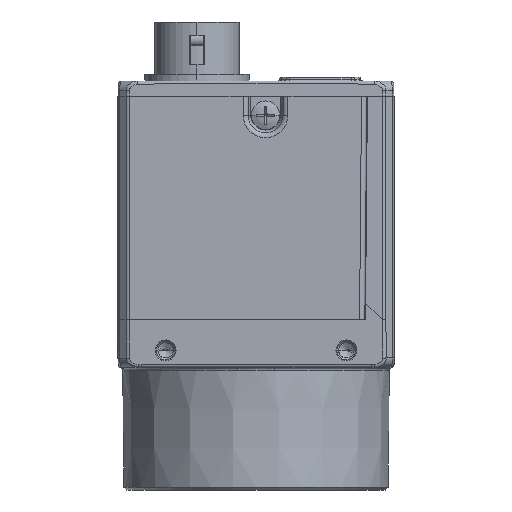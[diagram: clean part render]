
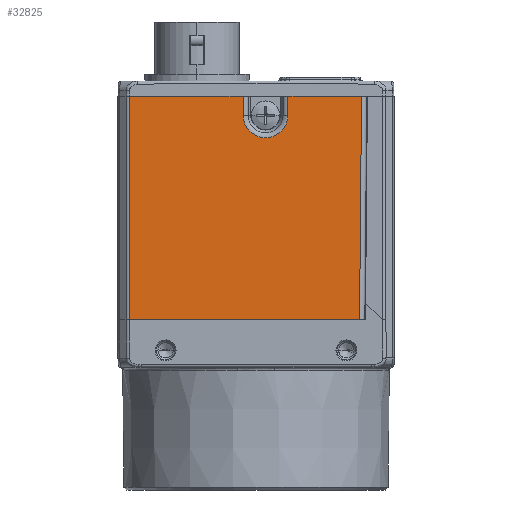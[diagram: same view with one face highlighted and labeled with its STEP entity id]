
A CAD part, left-side view. The second image highlights one B-rep face of the part: STEP entity #32825.
In plain terms, the highlighted planar face has unit normal (-1, 0, 0).
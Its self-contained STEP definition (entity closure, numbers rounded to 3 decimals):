
#1433=DIRECTION('',(0.,-1.,0.));
#1434=VECTOR('',#1433,24.173);
#1435=CARTESIAN_POINT('',(-14.5,13.293,
-0.5));
#1436=LINE('',#1435,#1434);
#2394=DIRECTION('',(0.,-1.,0.));
#2395=VECTOR('',#2394,11.935);
#2396=CARTESIAN_POINT('',(-14.5,13.293,23.));
#2397=LINE('',#2396,#2395);
#2398=CARTESIAN_POINT('',(-14.5,-1.,21.));
#2399=DIRECTION('',(-1.,0.,0.));
#2400=DIRECTION('',(0.,1.,0.));
#2401=AXIS2_PLACEMENT_3D('',#2398,#2399,#2400);
#2403=DIRECTION('',(0.,-1.,0.));
#2404=VECTOR('',#2403,7.727);
#2405=CARTESIAN_POINT('',(-14.5,-3.358,23.));
#2406=LINE('',#2405,#2404);
#2407=DIRECTION('',(0.,0.009,-1.));
#2408=VECTOR('',#2407,23.501);
#2409=CARTESIAN_POINT('',(-14.5,-11.085,
23.));
#2410=LINE('',#2409,#2408);
#2411=DIRECTION('',(0.,0.,1.));
#2412=VECTOR('',#2411,2.);
#2413=CARTESIAN_POINT('',(-14.5,1.358,21.));
#2414=LINE('',#2413,#2412);
#2433=DIRECTION('',(0.,0.,-1.));
#2434=VECTOR('',#2433,2.);
#2435=CARTESIAN_POINT('',(-14.5,-3.358,23.));
#2436=LINE('',#2435,#2434);
#5631=DIRECTION('',(0.,0.,-1.));
#5632=VECTOR('',#5631,23.5);
#5633=CARTESIAN_POINT('',(-14.5,13.293,23.));
#5634=LINE('',#5633,#5632);
#24896=CARTESIAN_POINT('',(-14.5,-11.085,
23.));
#24897=VERTEX_POINT('',#24896);
#24898=CARTESIAN_POINT('',(-14.5,-3.358,23.));
#24899=CARTESIAN_POINT('',(-14.5,1.358,
23.));
#24900=VERTEX_POINT('',#24898);
#24901=VERTEX_POINT('',#24899);
#24902=CARTESIAN_POINT('',(-14.5,13.293,
23.));
#24903=VERTEX_POINT('',#24902);
#24904=CARTESIAN_POINT('',(-14.5,1.358,21.));
#24905=CARTESIAN_POINT('',(-14.5,-3.358,21.));
#24906=VERTEX_POINT('',#24904);
#24907=VERTEX_POINT('',#24905);
#24908=CARTESIAN_POINT('',(-14.5,-10.88,
-0.5));
#24909=VERTEX_POINT('',#24908);
#24910=CARTESIAN_POINT('',(-14.5,13.293,
-0.5));
#24911=VERTEX_POINT('',#24910);
#32805=CARTESIAN_POINT('',(-14.5,1.104,11.25));
#32806=DIRECTION('',(1.,0.,0.));
#32807=DIRECTION('',(0.,-1.,0.));
#32808=AXIS2_PLACEMENT_3D('',#32805,#32806,#32807);
#32809=PLANE('',#32808);
#32810=ORIENTED_EDGE('',*,*,#32786,.T.);
#32812=ORIENTED_EDGE('',*,*,#32811,.F.);
#32814=ORIENTED_EDGE('',*,*,#32813,.T.);
#32816=ORIENTED_EDGE('',*,*,#32815,.F.);
#32817=ORIENTED_EDGE('',*,*,#32798,.T.);
#32819=ORIENTED_EDGE('',*,*,#32818,.T.);
#32820=ORIENTED_EDGE('',*,*,#32146,.F.);
#32822=ORIENTED_EDGE('',*,*,#32821,.F.);
#32823=EDGE_LOOP('',(#32810,#32812,#32814,#32816,#32817,#32819,#32820,#32822));
#32824=FACE_OUTER_BOUND('',#32823,.F.);
#32825=ADVANCED_FACE('',(#32824),#32809,.F.);
#2402=CIRCLE('',#2401,2.358);
#32146=EDGE_CURVE('',#24911,#24909,#1436,.T.);
#32786=EDGE_CURVE('',#24903,#24901,#2397,.T.);
#32798=EDGE_CURVE('',#24900,#24897,#2406,.T.);
#32811=EDGE_CURVE('',#24906,#24901,#2414,.T.);
#32813=EDGE_CURVE('',#24906,#24907,#2402,.T.);
#32815=EDGE_CURVE('',#24900,#24907,#2436,.T.);
#32818=EDGE_CURVE('',#24897,#24909,#2410,.T.);
#32821=EDGE_CURVE('',#24903,#24911,#5634,.T.);
